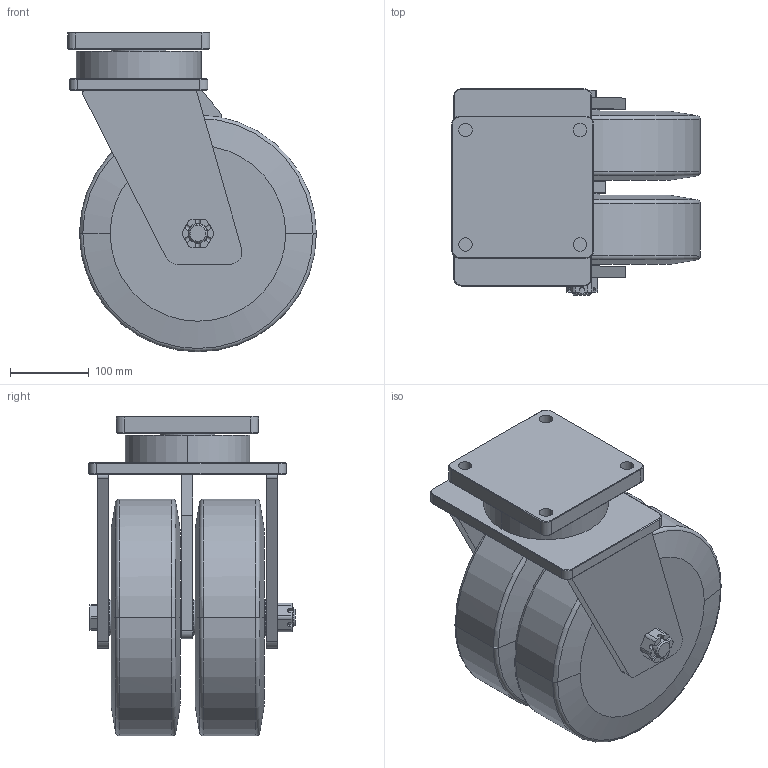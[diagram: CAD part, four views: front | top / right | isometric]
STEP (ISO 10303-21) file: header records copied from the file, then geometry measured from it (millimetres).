
FILE_DESCRIPTION(/* description */ (''),/* implementation_level */ '2;1');
FILE_NAME(/* name */ '40B19_12_F.stp',/* time_stamp */ '2022-08-29T10:51:51+08:00',/* author */ (''),/* organization */ (''),/* preprocessor_version */ 'ST-DEVELOPER v14',/* originating_system */ 'SIEMENS PLM Software NX 8.0',/* authorisation */ '');
FILE_SCHEMA (('AUTOMOTIVE_DESIGN { 1 0 10303 214 3 1 1 1 }'));
Length unit declared in the file: millimetre
Products named in the file (1): 40B19_12_F
Bounding box: 315 x 261.5 x 405 mm (x, y, z)
Volume: 14926725.2 mm3; surface area: 772633.4 mm2
Topology: 1 solids, 1 shells, 395 faces, 1050 edges, 694 vertices
Faces by surface type: plane 254, cylinder 107, cone 26, torus 8
Entity records: 12822 total; most frequent: CARTESIAN_POINT 3160, ORIENTED_EDGE 2100, DIRECTION 1866, EDGE_CURVE 1050, VERTEX_POINT 694, AXIS2_PLACEMENT_3D 674, LINE 518, VECTOR 518
